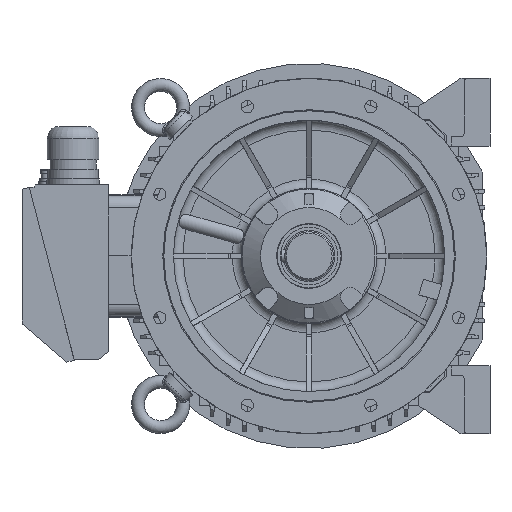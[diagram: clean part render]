
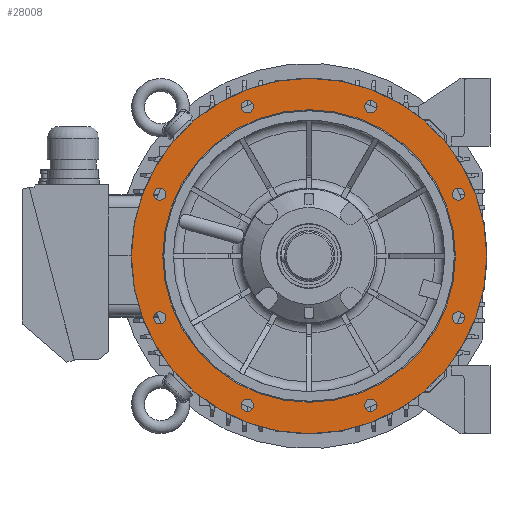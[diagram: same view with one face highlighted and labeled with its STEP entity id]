
A CAD part, front view. The second image highlights one B-rep face of the part: STEP entity #28008.
In plain terms, the highlighted planar face has unit normal (0, -1, 0).
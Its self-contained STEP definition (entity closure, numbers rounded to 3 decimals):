
#6916=ORIENTED_EDGE('',*,*,#11882,.F.);
#6917=ORIENTED_EDGE('',*,*,#11883,.F.);
#6918=ORIENTED_EDGE('',*,*,#11884,.F.);
#6919=ORIENTED_EDGE('',*,*,#11885,.F.);
#6920=ORIENTED_EDGE('',*,*,#11886,.F.);
#6921=ORIENTED_EDGE('',*,*,#11887,.T.);
#6922=ORIENTED_EDGE('',*,*,#11888,.F.);
#6923=ORIENTED_EDGE('',*,*,#11889,.F.);
#6924=ORIENTED_EDGE('',*,*,#11890,.F.);
#6925=ORIENTED_EDGE('',*,*,#11891,.F.);
#11882=EDGE_CURVE('',#14455,#14455,#15835,.F.);
#11883=EDGE_CURVE('',#14456,#14456,#15836,.F.);
#11884=EDGE_CURVE('',#14457,#14457,#15837,.F.);
#11885=EDGE_CURVE('',#14458,#14458,#15838,.F.);
#11886=EDGE_CURVE('',#14459,#14459,#15839,.T.);
#11887=EDGE_CURVE('',#14460,#14460,#15840,.T.);
#11888=EDGE_CURVE('',#14461,#14461,#15841,.F.);
#11889=EDGE_CURVE('',#14462,#14462,#15842,.F.);
#11890=EDGE_CURVE('',#14463,#14463,#15843,.F.);
#11891=EDGE_CURVE('',#14464,#14464,#15844,.F.);
#14455=VERTEX_POINT('',#39722);
#14456=VERTEX_POINT('',#39724);
#14457=VERTEX_POINT('',#39726);
#14458=VERTEX_POINT('',#39728);
#14459=VERTEX_POINT('',#39730);
#14460=VERTEX_POINT('',#39732);
#14461=VERTEX_POINT('',#39734);
#14462=VERTEX_POINT('',#39736);
#14463=VERTEX_POINT('',#39738);
#14464=VERTEX_POINT('',#39740);
#15835=CIRCLE('',#29449,9.5);
#15836=CIRCLE('',#29450,9.5);
#15837=CIRCLE('',#29451,9.5);
#15838=CIRCLE('',#29452,9.5);
#15839=CIRCLE('',#29453,226.4);
#15840=CIRCLE('',#29454,275.);
#15841=CIRCLE('',#29455,9.5);
#15842=CIRCLE('',#29456,9.5);
#15843=CIRCLE('',#29457,9.5);
#15844=CIRCLE('',#29458,9.5);
#16820=EDGE_LOOP('',(#6916));
#16821=EDGE_LOOP('',(#6917));
#16822=EDGE_LOOP('',(#6918));
#16823=EDGE_LOOP('',(#6919));
#16824=EDGE_LOOP('',(#6920));
#16825=EDGE_LOOP('',(#6921));
#16826=EDGE_LOOP('',(#6922));
#16827=EDGE_LOOP('',(#6923));
#16828=EDGE_LOOP('',(#6924));
#16829=EDGE_LOOP('',(#6925));
#18135=FACE_BOUND('',#16820,.T.);
#18136=FACE_BOUND('',#16821,.T.);
#18137=FACE_BOUND('',#16822,.T.);
#18138=FACE_BOUND('',#16823,.T.);
#18139=FACE_BOUND('',#16824,.T.);
#18140=FACE_BOUND('',#16825,.T.);
#18141=FACE_BOUND('',#16826,.T.);
#18142=FACE_BOUND('',#16827,.T.);
#18143=FACE_BOUND('',#16828,.T.);
#18144=FACE_BOUND('',#16829,.T.);
#19267=PLANE('',#29448);
#28008=ADVANCED_FACE('',(#18135,#18136,#18137,#18138,#18139,#18140,#18141,
#18142,#18143,#18144),#19267,.F.);
#29448=AXIS2_PLACEMENT_3D('',#39720,#33081,#33082);
#29449=AXIS2_PLACEMENT_3D('',#39721,#33083,#33084);
#29450=AXIS2_PLACEMENT_3D('',#39723,#33085,#33086);
#29451=AXIS2_PLACEMENT_3D('',#39725,#33087,#33088);
#29452=AXIS2_PLACEMENT_3D('',#39727,#33089,#33090);
#29453=AXIS2_PLACEMENT_3D('',#39729,#33091,#33092);
#29454=AXIS2_PLACEMENT_3D('',#39731,#33093,#33094);
#29455=AXIS2_PLACEMENT_3D('',#39733,#33095,#33096);
#29456=AXIS2_PLACEMENT_3D('',#39735,#33097,#33098);
#29457=AXIS2_PLACEMENT_3D('',#39737,#33099,#33100);
#29458=AXIS2_PLACEMENT_3D('',#39739,#33101,#33102);
#33081=DIRECTION('',(0.,1.,0.));
#33082=DIRECTION('',(-1.,0.,0.));
#33083=DIRECTION('',(0.,1.,0.));
#33084=DIRECTION('',(-1.,0.,0.));
#33085=DIRECTION('',(0.,1.,0.));
#33086=DIRECTION('',(-1.,0.,0.));
#33087=DIRECTION('',(0.,1.,0.));
#33088=DIRECTION('',(-1.,0.,0.));
#33089=DIRECTION('',(0.,1.,0.));
#33090=DIRECTION('',(-1.,0.,0.));
#33091=DIRECTION('',(0.,-1.,0.));
#33092=DIRECTION('',(1.,0.,0.));
#33093=DIRECTION('',(0.,-1.,0.));
#33094=DIRECTION('',(1.,0.,0.));
#33095=DIRECTION('',(0.,1.,0.));
#33096=DIRECTION('',(-1.,0.,0.));
#33097=DIRECTION('',(0.,1.,0.));
#33098=DIRECTION('',(-1.,0.,0.));
#33099=DIRECTION('',(0.,1.,0.));
#33100=DIRECTION('',(-1.,0.,0.));
#33101=DIRECTION('',(0.,1.,0.));
#33102=DIRECTION('',(-1.,0.,0.));
#39720=CARTESIAN_POINT('',(-226.4,-95.997,0.));
#39721=CARTESIAN_POINT('',(230.97,-95.997,95.671));
#39722=CARTESIAN_POINT('',(221.47,-95.997,95.671));
#39723=CARTESIAN_POINT('',(95.671,-95.997,-230.97));
#39724=CARTESIAN_POINT('',(86.171,-95.997,-230.97));
#39725=CARTESIAN_POINT('',(-230.97,-95.997,-95.671));
#39726=CARTESIAN_POINT('',(-240.47,-95.997,-95.671));
#39727=CARTESIAN_POINT('',(-95.671,-95.997,230.97));
#39728=CARTESIAN_POINT('',(-105.171,-95.997,230.97));
#39729=CARTESIAN_POINT('',(0.,-95.997,0.));
#39730=CARTESIAN_POINT('',(226.4,-95.997,0.));
#39731=CARTESIAN_POINT('',(0.,-95.997,0.));
#39732=CARTESIAN_POINT('',(275.,-95.997,0.));
#39733=CARTESIAN_POINT('',(-230.97,-95.997,95.671));
#39734=CARTESIAN_POINT('',(-240.47,-95.997,95.671));
#39735=CARTESIAN_POINT('',(-95.671,-95.997,-230.97));
#39736=CARTESIAN_POINT('',(-105.171,-95.997,-230.97));
#39737=CARTESIAN_POINT('',(230.97,-95.997,-95.671));
#39738=CARTESIAN_POINT('',(221.47,-95.997,-95.671));
#39739=CARTESIAN_POINT('',(95.671,-95.997,230.97));
#39740=CARTESIAN_POINT('',(86.171,-95.997,230.97));
